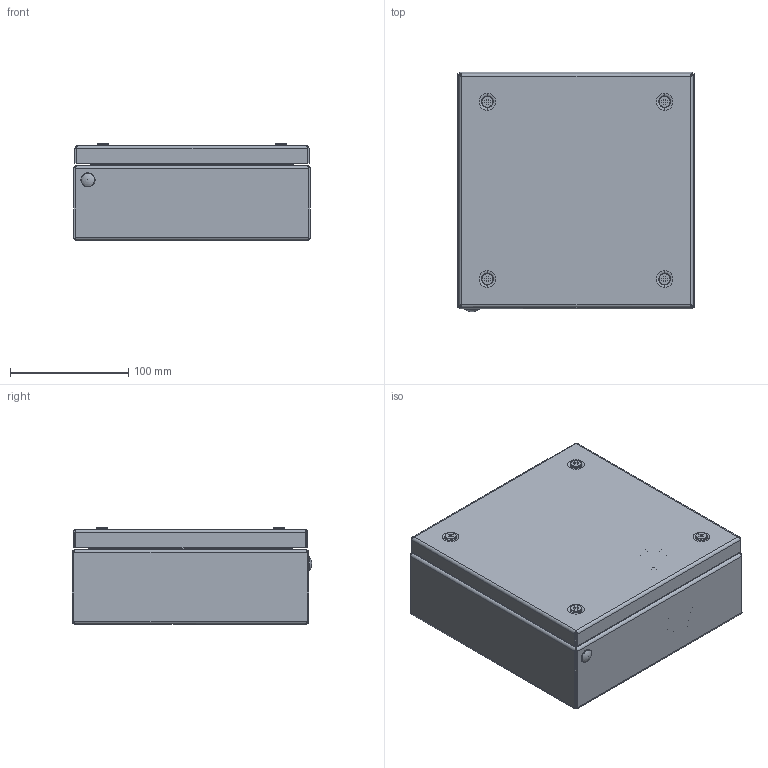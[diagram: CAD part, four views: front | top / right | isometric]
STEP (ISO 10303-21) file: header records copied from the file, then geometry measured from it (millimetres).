
FILE_DESCRIPTION (( 'STEP AP203' ), '1' );
FILE_NAME ('BCS 20.20.08-L Êîðîáêà êëåììíàÿ.STEP', '2025-05-06T09:18:24', ( '' ), ( '' ), 'SwSTEP 2.0', 'SolidWorks 2019', '' );
FILE_SCHEMA (( 'CONFIG_CONTROL_DESIGN' ));
Length unit declared in the file: millimetre
Products named in the file (14): BÑS X.Y.02.001-L Êðûøêà êëåììíàÿ_B‘S 20.20.02.001-L; BCS 20.20.08-L Êîðîáêà êëåììíàÿ; Ãàéêà çàêëàäíàÿ êâàäðàòíàÿ îö. Ì5_ƒ ©ª  § ª« ¤­ ï ª¢ ¤à â­ ï ®æ. Œ5 1,7-2,7; BCS X.Y.08.01.001 暑痫篑_BCS 20.20.08.01.001 姰喁汜; Essentra_d9.3_055009300003; DIN 07.Y DIN-ðåéêà_DIN 07.175 DIN-à¥©ª ; BÑS X.Y.02.000-L ÑÁ Êðûøêà êëåììíàÿ_B‘S 20.20.02.000-L; ﾘ琺矜 5 ﾃﾎﾑﾒ 11371-78_Washer DIN 126 - 5.5; B裇 X.Y.Z.01.000-L 蚜 暑痫篑 觌屐祉 疋囵眍開BCS 20.20.08.01.000-L; B裇 Y.004-L 鱼铍铌_B慡 20.004-L; 妈眚 襦祛磬疱玎栝_4,8x11; BCS X.002 ﾊ煇鳫_BCS 20.002 癌ｮｭ鞣･ｩｭ; Øïèëüêà çàçåìëåíèÿ Ì6õ17,5_v.2_˜¯¨«ìª  § §¥¬«¥­¨ï Œ6å17,5 á ª®«¯ çª®¬; 妈眚 礤恹镟溧栝 镱蜞轫铋 梦岩 10339-80_M5x32
Assembly tree (26 placements, depth 3):
  BCS 20.20.08-L Êîðîáêà êëåììíàÿ
    B裇 X.Y.Z.01.000-L 蚜 暑痫篑 觌屐祉 疋囵眍開BCS 20.20.08.01.000-L
      BCS X.Y.08.01.001 暑痫篑_BCS 20.20.08.01.001 姰喁汜
      BCS X.002 ﾊ煇鳫_BCS 20.002 癌ｮｭ鞣･ｩｭ  x2
      Øïèëüêà çàçåìëåíèÿ Ì6õ17,5_v.2_˜¯¨«ìª  § §¥¬«¥­¨ï Œ6å17,5 á ª®«¯ çª®¬
      B裇 Y.004-L 鱼铍铌_B慡 20.004-L  x2
    BÑS X.Y.02.000-L ÑÁ Êðûøêà êëåììíàÿ_B‘S 20.20.02.000-L
      BÑS X.Y.02.001-L Êðûøêà êëåììíàÿ_B‘S 20.20.02.001-L
      Øïèëüêà çàçåìëåíèÿ Ì6õ17,5_v.2_˜¯¨«ìª  § §¥¬«¥­¨ï Œ6å17,5 á ª®«¯ çª®¬
    DIN 07.Y DIN-ðåéêà_DIN 07.175 DIN-à¥©ª 
    妈眚 襦祛磬疱玎栝_4,8x11  x2
    ﾘ琺矜 5 ﾃﾎﾑﾒ 11371-78_Washer DIN 126 - 5.5  x4
    妈眚 礤恹镟溧栝 镱蜞轫铋 梦岩 10339-80_M5x32  x4
    Ãàéêà çàêëàäíàÿ êâàäðàòíàÿ îö. Ì5_ƒ ©ª  § ª« ¤­ ï ª¢ ¤à â­ ï ®æ. Œ5 1,7-2,7  x4
    Essentra_d9.3_055009300003
Bounding box: 200 x 202.5 x 81.5 mm (x, y, z)
Volume: 259638.3 mm3; surface area: 414774.6 mm2
Topology: 31 solids, 31 shells, 1593 faces, 3781 edges, 2265 vertices
Faces by surface type: plane 884, cylinder 494, bspline 86, cone 84, torus 44, sphere 1
Entity records: 29447 total; most frequent: CARTESIAN_POINT 9452, ORIENTED_EDGE 3854, DIRECTION 3670, EDGE_CURVE 1927, AXIS2_PLACEMENT_3D 1276, VERTEX_POINT 1157, VECTOR 1118, LINE 1118
